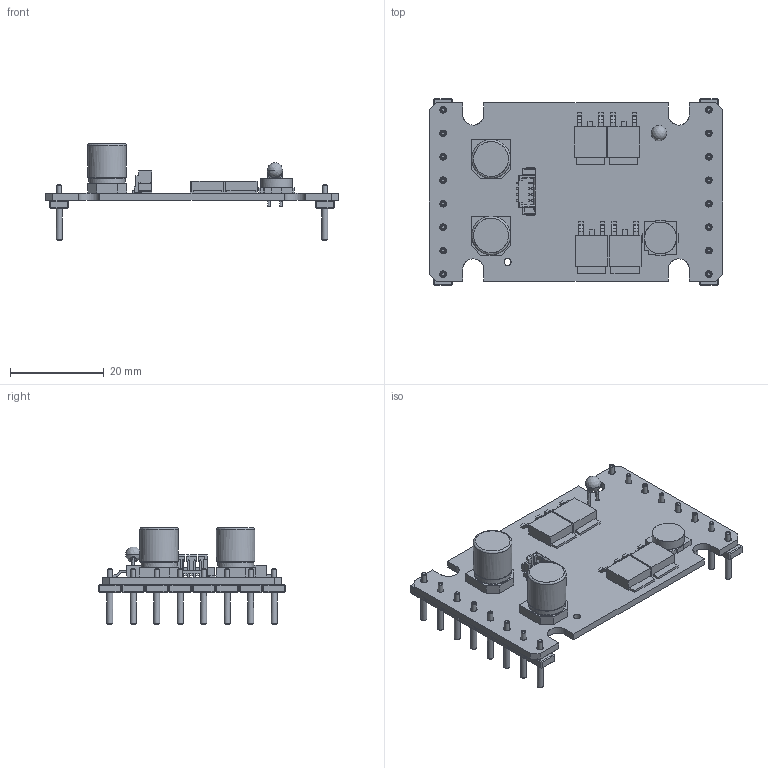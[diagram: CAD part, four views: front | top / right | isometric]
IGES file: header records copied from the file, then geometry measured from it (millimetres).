
Global section: file name: D:\Daten\PLM_Export\6500\MCDC_3003.igs; native system: NX V7.5; preprocessor: SIEMENS PLM Software NX 7.5; author: DR. FRITZ FAULHABER GmbH & Co. KG; organization: DR. FRITZ FAULHABER GmbH & Co. KG; date: 20111110.105018; units: millimetre
Bounding box: 62.5 x 39.8 x 20.65 mm (x, y, z)
Surface area: 7419.8 mm2 (no closed solid volume)
Topology: 0 solids, 0 shells, 1112 faces, 5964 edges, 5838 vertices
Faces by surface type: bspline 1112
